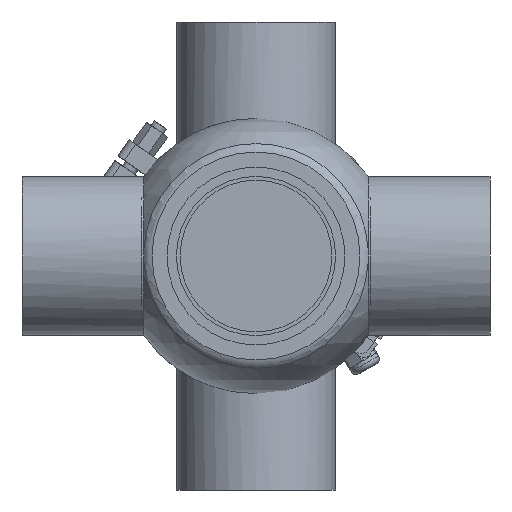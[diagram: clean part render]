
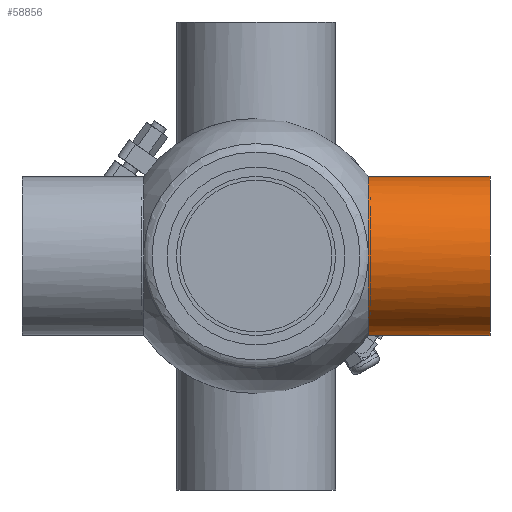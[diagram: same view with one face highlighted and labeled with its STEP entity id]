
A CAD part, front view. The second image highlights one B-rep face of the part: STEP entity #58856.
In plain terms, the highlighted cylindrical face has radius 42.5 mm (diameter 85 mm), a full revolution.
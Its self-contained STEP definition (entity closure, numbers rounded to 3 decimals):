
#924 = B_SPLINE_CURVE_WITH_KNOTS ( 'NONE', 3,
 ( #54316, #15731, #59269, #20404, #39363, #15408 ),
 .UNSPECIFIED., .F., .F.,
 ( 4, 2, 4 ),
 ( 0.024, 0.026, 0.028 ),
 .UNSPECIFIED. ) ;
#1290 = ORIENTED_EDGE ( 'NONE', *, *, #2873, .T. ) ;
#1432 = EDGE_LOOP ( 'NONE', ( #24171 ) ) ;
#2873 = EDGE_CURVE ( 'NONE', #16645, #7147, #16320, .T. ) ;
#3888 = EDGE_CURVE ( 'NONE', #7147, #31179, #21867, .T. ) ;
#3910 = CARTESIAN_POINT ( 'NONE',  ( 59.967, -42.367, -3.354 ) ) ;
#4318 = VERTEX_POINT ( 'NONE', #27312 ) ;
#5333 = ORIENTED_EDGE ( 'NONE', *, *, #23003, .T. ) ;
#7036 = CARTESIAN_POINT ( 'NONE',  ( 59.967, -42.367, -3.354 ) ) ;
#7044 = DIRECTION ( 'NONE',  ( 1., 0., 0. ) ) ;
#7147 = VERTEX_POINT ( 'NONE', #12371 ) ;
#7700 = DIRECTION ( 'NONE',  ( 0., 0., 1. ) ) ;
#9036 = DIRECTION ( 'NONE',  ( 0., 0., 1. ) ) ;
#10131 = CARTESIAN_POINT ( 'NONE',  ( 59.967, -42.367, 3.354 ) ) ;
#11707 = CARTESIAN_POINT ( 'NONE',  ( 59.967, -42.455, 2.244 ) ) ;
#12371 = CARTESIAN_POINT ( 'NONE',  ( 59.967, -42.367, 3.354 ) ) ;
#15408 = CARTESIAN_POINT ( 'NONE',  ( 59.967, 42.453, 2. ) ) ;
#15438 = EDGE_CURVE ( 'NONE', #31179, #4318, #24651, .T. ) ;
#15731 = CARTESIAN_POINT ( 'NONE',  ( 59.989, 42.484, -1.338 ) ) ;
#16086 = CARTESIAN_POINT ( 'NONE',  ( 59.965, -42.489, -1.116 ) ) ;
#16320 = CIRCLE ( 'NONE', #18273, 42.5 ) ;
#16645 = VERTEX_POINT ( 'NONE', #55678 ) ;
#16709 = CARTESIAN_POINT ( 'NONE',  ( 59.965, -42.5, 1.129 ) ) ;
#16759 = CARTESIAN_POINT ( 'NONE',  ( 125., 0., 0. ) ) ;
#18273 = AXIS2_PLACEMENT_3D ( 'NONE', #21387, #7044, #44393 ) ;
#18675 = DIRECTION ( 'NONE',  ( 0., 0., 1. ) ) ;
#20404 = CARTESIAN_POINT ( 'NONE',  ( 60., 42.5, 0.666 ) ) ;
#21387 = CARTESIAN_POINT ( 'NONE',  ( 59.967, 0., 0. ) ) ;
#21867 = B_SPLINE_CURVE_WITH_KNOTS ( 'NONE', 3,
 ( #10131, #11707, #16709, #59592, #16086, #59313, #49373, #7036 ),
 .UNSPECIFIED., .F., .F.,
 ( 4, 2, 2, 4 ),
 ( 0.025, 0.028, 0.03, 0.032 ),
 .UNSPECIFIED. ) ;
#23003 = EDGE_CURVE ( 'NONE', #4318, #16645, #924, .T. ) ;
#23661 = AXIS2_PLACEMENT_3D ( 'NONE', #46987, #60980, #9036 ) ;
#24171 = ORIENTED_EDGE ( 'NONE', *, *, #40889, .T. ) ;
#24651 = CIRCLE ( 'NONE', #53486, 42.5 ) ;
#27312 = CARTESIAN_POINT ( 'NONE',  ( 59.967, 42.453, -2. ) ) ;
#27696 = CARTESIAN_POINT ( 'NONE',  ( 59.967, 0., 0. ) ) ;
#27724 = CYLINDRICAL_SURFACE ( 'NONE', #23661, 42.5 ) ;
#28882 = CIRCLE ( 'NONE', #41788, 42.5 ) ;
#28928 = FACE_OUTER_BOUND ( 'NONE', #1432, .T. ) ;
#31179 = VERTEX_POINT ( 'NONE', #3910 ) ;
#31786 = VERTEX_POINT ( 'NONE', #46712 ) ;
#32946 = DIRECTION ( 'NONE',  ( 1., 0., 0. ) ) ;
#35713 = DIRECTION ( 'NONE',  ( -1., 0., 0. ) ) ;
#39363 = CARTESIAN_POINT ( 'NONE',  ( 59.989, 42.484, 1.336 ) ) ;
#40889 = EDGE_CURVE ( 'NONE', #31786, #31786, #28882, .T. ) ;
#41788 = AXIS2_PLACEMENT_3D ( 'NONE', #16759, #35713, #7700 ) ;
#44393 = DIRECTION ( 'NONE',  ( 0., 0., 1. ) ) ;
#44509 = ORIENTED_EDGE ( 'NONE', *, *, #15438, .T. ) ;
#46712 = CARTESIAN_POINT ( 'NONE',  ( 125., 0., 42.5 ) ) ;
#46987 = CARTESIAN_POINT ( 'NONE',  ( 0., 0., 0. ) ) ;
#49373 = CARTESIAN_POINT ( 'NONE',  ( 59.967, -42.412, -2.797 ) ) ;
#50157 = FACE_OUTER_BOUND ( 'NONE', #50355, .T. ) ;
#50355 = EDGE_LOOP ( 'NONE', ( #1290, #58946, #44509, #5333 ) ) ;
#53486 = AXIS2_PLACEMENT_3D ( 'NONE', #27696, #32946, #18675 ) ;
#54316 = CARTESIAN_POINT ( 'NONE',  ( 59.967, 42.453, -2. ) ) ;
#55678 = CARTESIAN_POINT ( 'NONE',  ( 59.967, 42.453, 2. ) ) ;
#58856 = ADVANCED_FACE ( 'NONE', ( #50157, #28928 ), #27724, .T. ) ;
#58946 = ORIENTED_EDGE ( 'NONE', *, *, #3888, .T. ) ;
#59269 = CARTESIAN_POINT ( 'NONE',  ( 60., 42.5, -0.672 ) ) ;
#59313 = CARTESIAN_POINT ( 'NONE',  ( 59.966, -42.445, -2.238 ) ) ;
#59592 = CARTESIAN_POINT ( 'NONE',  ( 59.965, -42.5, -0.553 ) ) ;
#60980 = DIRECTION ( 'NONE',  ( -1., 0., 0. ) ) ;
